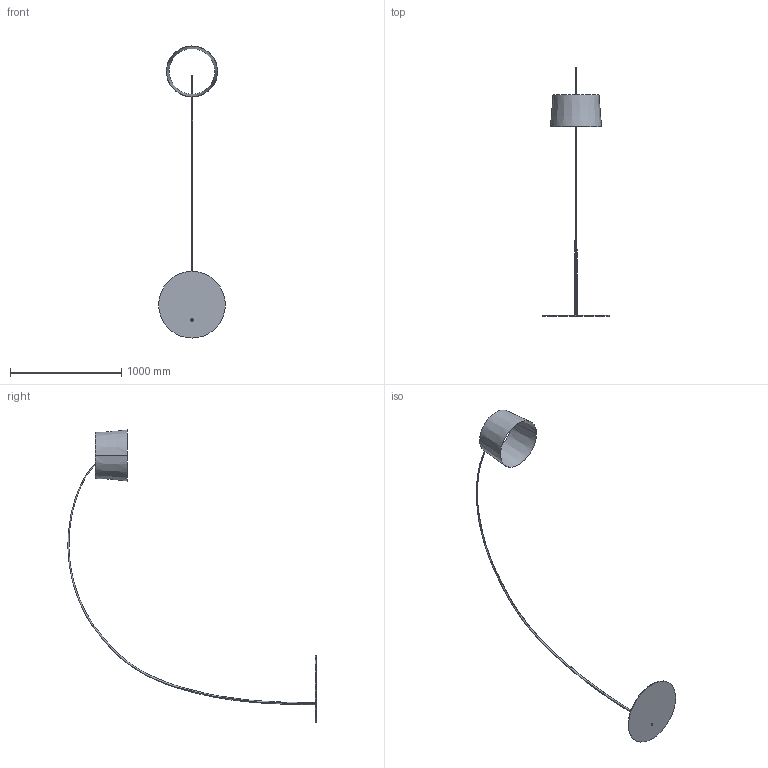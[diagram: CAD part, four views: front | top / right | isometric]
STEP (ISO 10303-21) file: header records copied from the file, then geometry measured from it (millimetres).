
FILE_DESCRIPTION (( 'STEP AP203' ), '1' );
FILE_NAME ('TWIGGY ELLE_terra.STEP', '2020-02-12T11:51:39', ( '' ), ( '' ), 'SwSTEP 2.0', 'SolidWorks 2020', '' );
FILE_SCHEMA (( 'CONFIG_CONTROL_DESIGN' ));
Length unit declared in the file: millimetre
Products named in the file (1): TWIGGY ELLE_terra
Bounding box: 600 x 2233.88 x 2630 mm (x, y, z)
Volume: 2255987.2 mm3; surface area: 1700582.4 mm2
Topology: 4 solids, 4 shells, 32 faces, 70 edges, 43 vertices
Faces by surface type: cone 10, cylinder 8, bspline 8, plane 6
Entity records: 11062 total; most frequent: CARTESIAN_POINT 10329, ORIENTED_EDGE 140, DIRECTION 112, EDGE_CURVE 70, AXIS2_PLACEMENT_3D 47, VERTEX_POINT 43, EDGE_LOOP 41, FACE_OUTER_BOUND 32
